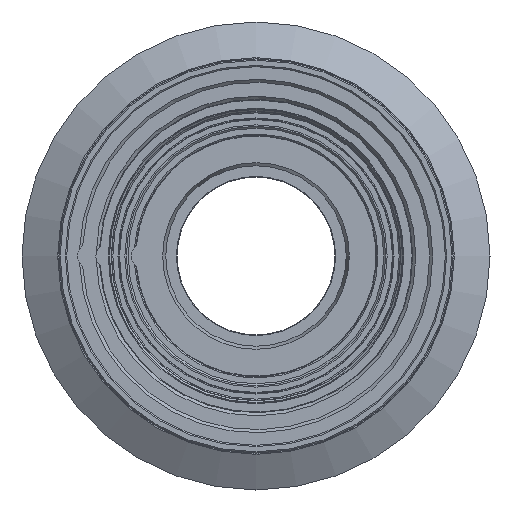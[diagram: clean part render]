
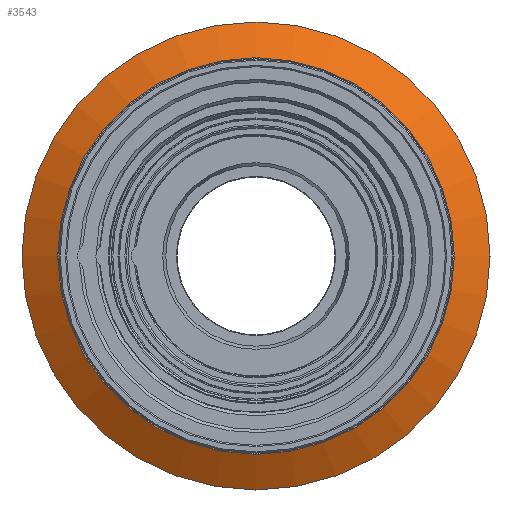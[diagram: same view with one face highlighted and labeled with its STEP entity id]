
A CAD part, left-side view. The second image highlights one B-rep face of the part: STEP entity #3543.
In plain terms, the highlighted conical face has half-angle 60.25 degrees and reference radius 37.998 mm.
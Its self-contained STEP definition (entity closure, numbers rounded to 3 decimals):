
#2800=CONICAL_SURFACE('',#31673,37.998,60.25);
#3543=ADVANCED_FACE('',(#9789,#9790),#2800,.T.);
#5706=CIRCLE('',#31670,37.998);
#5707=CIRCLE('',#31672,32.198);
#9789=FACE_BOUND('',#11164,.T.);
#9790=FACE_BOUND('',#11165,.T.);
#11164=EDGE_LOOP('',(#15711));
#11165=EDGE_LOOP('',(#15712));
#15711=ORIENTED_EDGE('',*,*,#26108,.F.);
#15712=ORIENTED_EDGE('',*,*,#26107,.T.);
#22570=VERTEX_POINT('',#48422);
#22571=VERTEX_POINT('',#48425);
#26107=EDGE_CURVE('',#22570,#22570,#5706,.T.);
#26108=EDGE_CURVE('',#22571,#22571,#5707,.T.);
#31670=AXIS2_PLACEMENT_3D('',#48421,#36231,#36232);
#31672=AXIS2_PLACEMENT_3D('',#48424,#36235,#36236);
#31673=AXIS2_PLACEMENT_3D('',#48426,#36237,#36238);
#36231=DIRECTION('',(-1.,0.,0.));
#36232=DIRECTION('',(0.,0.,1.));
#36235=DIRECTION('',(-1.,0.,0.));
#36236=DIRECTION('',(0.,0.,1.));
#36237=DIRECTION('',(1.,0.,0.));
#36238=DIRECTION('',(0.,0.,-1.));
#48421=CARTESIAN_POINT('',(-18.845,0.,0.));
#48422=CARTESIAN_POINT('',(-18.845,0.,37.998));
#48424=CARTESIAN_POINT('',(-22.16,0.,0.));
#48425=CARTESIAN_POINT('',(-22.16,0.,32.198));
#48426=CARTESIAN_POINT('',(-18.845,0.,0.));
